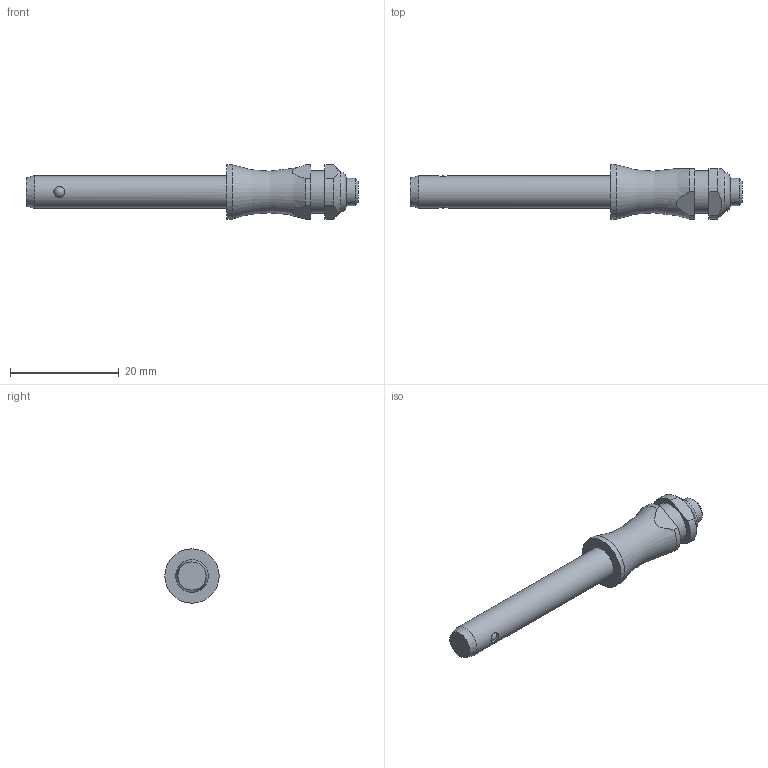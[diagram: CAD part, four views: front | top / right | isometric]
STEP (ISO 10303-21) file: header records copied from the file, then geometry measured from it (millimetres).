
FILE_DESCRIPTION( ( 'STEP AP203' ), '1' );
FILE_NAME( 'C:/Temp/Ganter_Step_05_03_2020/data/3_1/gn113_3/Stainless Steel-Ball lock pin GN 113.3-6-30 (activated).stp', '2020-03-12T08:18:17', ( 'License CC BY-ND 4.0' ), ( 'CADENAS' ), ' ', 'PARTsolutions', ' ' );
FILE_SCHEMA( ( 'CONFIG_CONTROL_DESIGN' ) );
Length unit declared in the file: millimetre
Products named in the file (1): _Stainless Steel-Ball lock pin GN 113.3-6-30 (activated)
Bounding box: 61.15 x 10 x 10 mm (x, y, z)
Volume: 2337.4 mm3; surface area: 1499.3 mm2
Topology: 1 solids, 1 shells, 31 faces, 73 edges, 46 vertices
Faces by surface type: plane 12, cylinder 12, cone 3, torus 2, sphere 2
Full cylindrical faces by diameter (mm): 2 x2, 5 x1, 6 x1, 7.9 x1, 10 x1
Entity records: 962 total; most frequent: CARTESIAN_POINT 298, DIRECTION 134, ORIENTED_EDGE 104, AXIS2_PLACEMENT_3D 58, EDGE_CURVE 52, EDGE_LOOP 48, VERTEX_POINT 40, FACE_OUTER_BOUND 39
